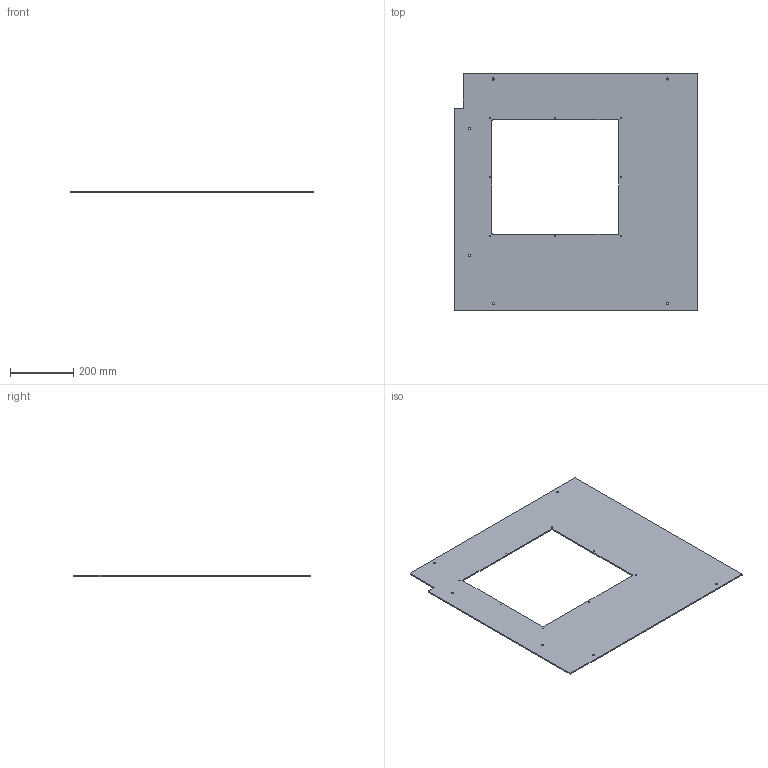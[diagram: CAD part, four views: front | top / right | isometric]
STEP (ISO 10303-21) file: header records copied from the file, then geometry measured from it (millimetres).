
FILE_DESCRIPTION(/* description */ (''),/* implementation_level */ '2;1');
FILE_NAME(/* name */ 'SIde Module Front Panel 1.step',/* time_stamp */ '2026-05-13T16:14:29-07:00',/* author */ (''),/* organization */ (''),/* preprocessor_version */ 'ST-DEVELOPER v20.1',/* originating_system */ 'Autodesk Translation Framework v15.8.0.0',/* authorisation */ '');
FILE_SCHEMA (('AUTOMOTIVE_DESIGN { 1 0 10303 214 3 1 1 }'));
Length unit declared in the file: millimetre
Products named in the file (1): SIde Module Front Panel 1
Bounding box: 766.5 x 745 x 3.67 mm (x, y, z)
Volume: 1554838.9 mm3; surface area: 864756.6 mm2
Topology: 1 solids, 1 shells, 36 faces, 102 edges, 68 vertices
Faces by surface type: cylinder 24, plane 12
Full cylindrical faces by diameter (mm): 3.332 x8, 7 x6
Entity records: 1287 total; most frequent: DIRECTION 224, CARTESIAN_POINT 207, ORIENTED_EDGE 204, EDGE_CURVE 102, AXIS2_PLACEMENT_3D 85, VERTEX_POINT 68, EDGE_LOOP 66, LINE 54
